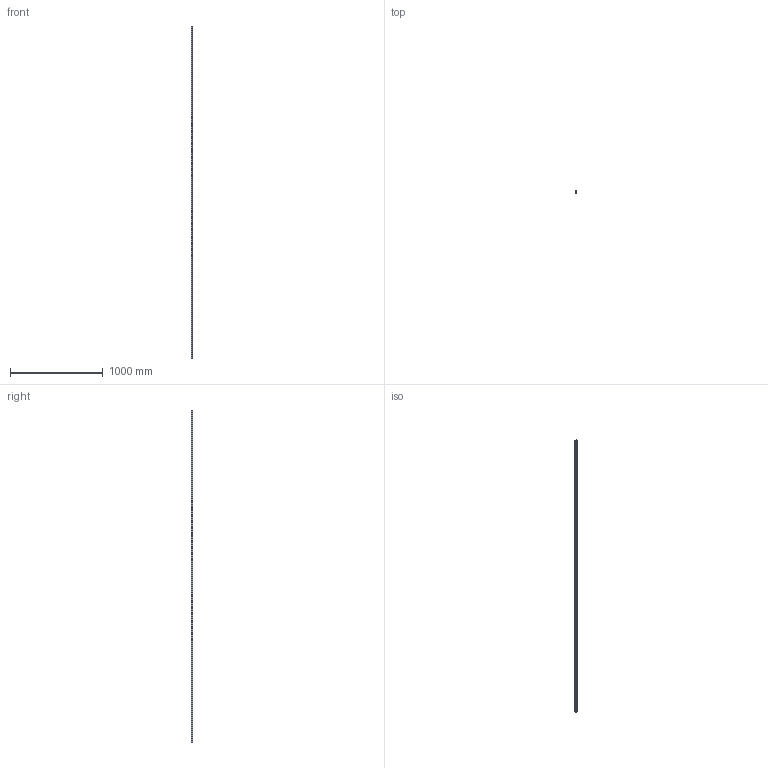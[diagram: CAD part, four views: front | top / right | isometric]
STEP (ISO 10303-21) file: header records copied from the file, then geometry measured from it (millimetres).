
FILE_DESCRIPTION (( 'STEP AP203' ), '1' );
FILE_NAME ('L1016.BL20-3580.step', '2019-06-12T11:57:41', ( '' ), ( '' ), 'SwSTEP 2.0', 'SolidWorks 2017', '' );
FILE_SCHEMA (( 'CONFIG_CONTROL_DESIGN' ));
Length unit declared in the file: millimetre
Products named in the file (1): L1016.BL20-3580
Bounding box: 20 x 16.3 x 3580 mm (x, y, z)
Volume: 995197.8 mm3; surface area: 287810.7 mm2
Topology: 1 solids, 1 shells, 326 faces, 792 edges, 528 vertices
Faces by surface type: cylinder 244, plane 82
Entity records: 10141 total; most frequent: DIRECTION 1934, CARTESIAN_POINT 1647, ORIENTED_EDGE 1584, AXIS2_PLACEMENT_3D 815, EDGE_CURVE 792, VERTEX_POINT 528, EDGE_LOOP 506, CIRCLE 488
